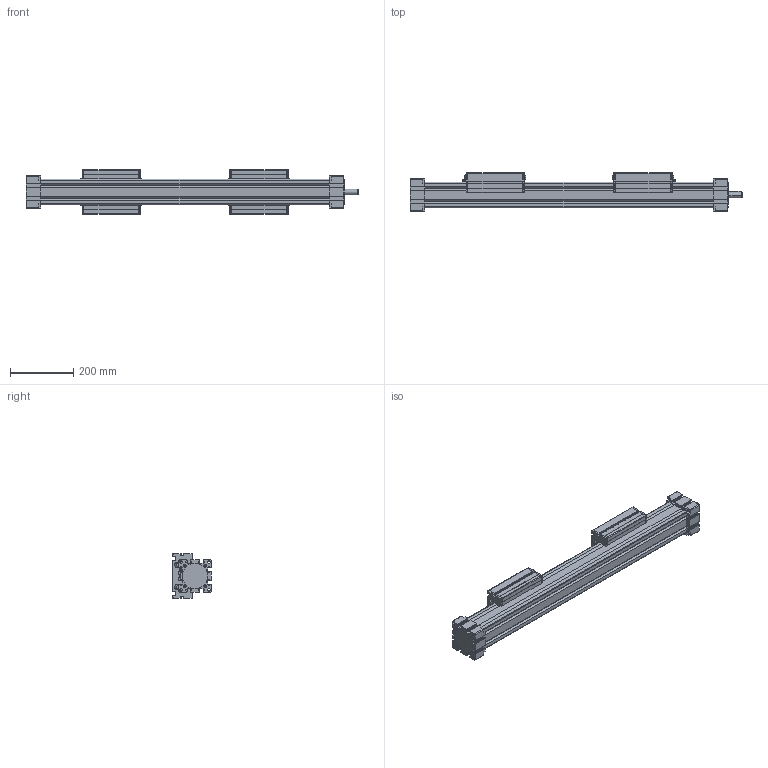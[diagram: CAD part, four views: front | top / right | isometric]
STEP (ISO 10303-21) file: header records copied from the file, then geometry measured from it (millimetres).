
FILE_DESCRIPTION (( 'STEP AP214' ), '1' );
FILE_NAME ('EGTK-80-RL.STEP', '2016-01-14T08:05:41', ( 'admin' ), ( '' ), 'SwSTEP 2.0', 'SolidWorks 2015', '' );
FILE_SCHEMA (( 'AUTOMOTIVE_DESIGN' ));
Length unit declared in the file: millimetre
Products named in the file (6): Kopie von Bahr-EGT-EGK-RL-EGT-80  3  0 0 0  0 0 0  980_Cover Band^EGT(K)80RL S0 A0; Kopie von Bahr-EGT-EGK-RL-EGT-80  3  0 0 0  0 0 0  980_EG80 Carriage^EGT(K)80RL S0 A0_A; Kopie von Bahr-EGT-EGK-RL-EGT-80  3  0 0 0  0 0 0  980_EGTK End Block 80 (B)^EGT(K)80RL S0 A0_EGTK-80 End Block 0-0; Kopie von Bahr-EGT-EGK-RL-EGT-80  3  0 0 0  0 0 0  980_EG80 Extrusion^EGT(K)80RL S0 A0; Kopie von Bahr-EGT-EGK-RL-EGT-80  3  0 0 0  0 0 0  980_EGTK End Block 80 (A)^EGT(K)80RL S0 A0_EGTK-80 End Block 0-2; EGTK-80-RL
Assembly tree (6 placements, depth 2):
  EGTK-80-RL
    Kopie von Bahr-EGT-EGK-RL-EGT-80  3  0 0 0  0 0 0  980_EGTK End Block 80 (A)^EGT(K)80RL S0 A0_EGTK-80 End Block 0-2
    Kopie von Bahr-EGT-EGK-RL-EGT-80  3  0 0 0  0 0 0  980_EG80 Extrusion^EGT(K)80RL S0 A0
    Kopie von Bahr-EGT-EGK-RL-EGT-80  3  0 0 0  0 0 0  980_EGTK End Block 80 (B)^EGT(K)80RL S0 A0_EGTK-80 End Block 0-0
    Kopie von Bahr-EGT-EGK-RL-EGT-80  3  0 0 0  0 0 0  980_EG80 Carriage^EGT(K)80RL S0 A0_A  x2
    Kopie von Bahr-EGT-EGK-RL-EGT-80  3  0 0 0  0 0 0  980_Cover Band^EGT(K)80RL S0 A0
Bounding box: 1046 x 121 x 140 mm (x, y, z)
Volume: 7933285.1 mm3; surface area: 813572.1 mm2
Topology: 10 solids, 12 shells, 1375 faces, 3736 edges, 2421 vertices
Faces by surface type: plane 964, cylinder 300, torus 56, cone 35, sphere 20
Entity records: 33327 total; most frequent: CARTESIAN_POINT 5758, ORIENTED_EDGE 5532, DIRECTION 5295, EDGE_CURVE 2766, VECTOR 2257, LINE 2257, VERTEX_POINT 1810, AXIS2_PLACEMENT_3D 1519
